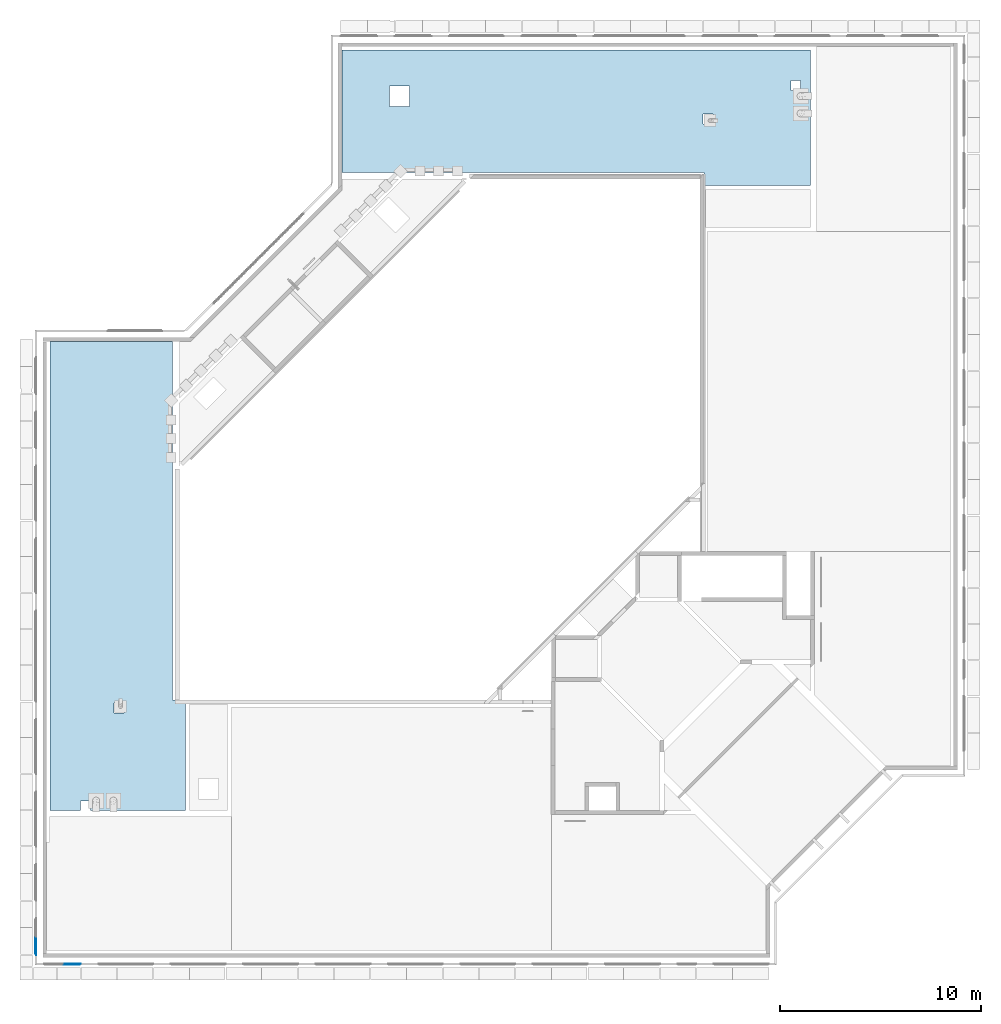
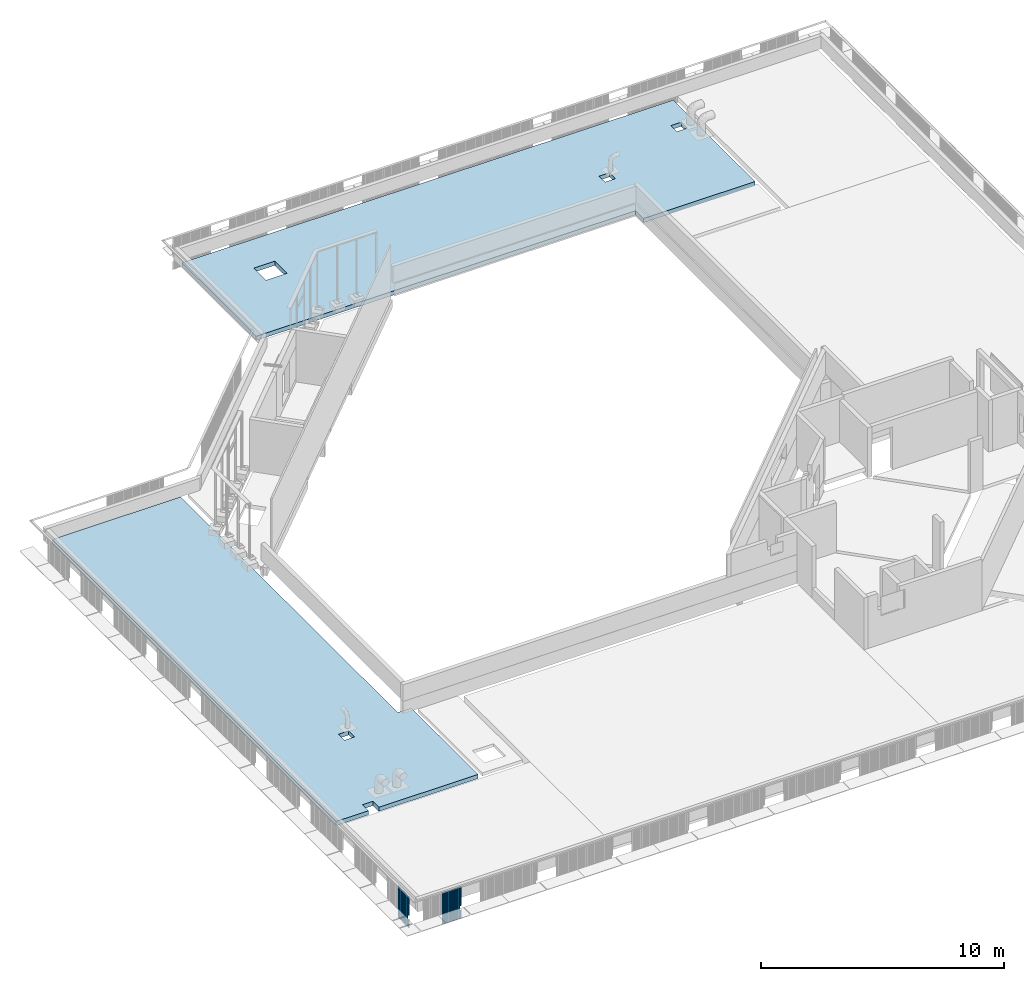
# One storey, part 17 of 37: 2 slabs, 2 walls.
"""IFC4X3_ADD2 building model written with IfcOpenShell, lengths in millimetres."""

import ifcopenshell
import ifcopenshell.guid

model = None  # the IFC model being written
_history = None  # IfcOwnerHistory: only IFC2X3 demands one
_inside = {}  # id of a spatial element -> (the spatial element, [elements in it])
_under = {}  # id of a project, library or spatial element -> (it, [spatial elements below it])
_declared = {}  # id of a project -> (the project, [libraries it declares])
_typed = {}  # id of a type object -> (the type object, [elements of that type])
_made_of = {}  # id of a material, layer set ... -> (it, [elements and type objects made of it])


def new_model(schema):
    """Start an empty IFC model of exactly this schema.

    Asked for "IFC4X3", IfcOpenShell would pick the latest addendum, in which some entities
    have other attributes; the version numbers below select the first issue.
    IFC2X3 requires an IfcOwnerHistory on every rooted entity: one is made here for all.
    """
    global model, _history
    if schema == "IFC4X3":
        model = ifcopenshell.file(schema_version=(4, 3, 0, 0))
    else:
        model = ifcopenshell.file(schema=schema)
    _inside.clear()
    _under.clear()
    _declared.clear()
    _typed.clear()
    _made_of.clear()
    _history = None
    if model.schema == "IFC2X3":
        org = make("IfcOrganization", Name="unknown")
        user = make(
            "IfcPersonAndOrganization",
            ThePerson=make("IfcPerson", FamilyName="unknown"),
            TheOrganization=org,
        )
        app = make(
            "IfcApplication",
            ApplicationDeveloper=org,
            Version="unknown",
            ApplicationFullName="unknown",
            ApplicationIdentifier="unknown",
        )
        _history = make(
            "IfcOwnerHistory",
            OwningUser=user,
            OwningApplication=app,
            ChangeAction="ADDED",
            CreationDate=0,
        )
    return model


def make(cls, **values):
    """One entity of the class cls with the attributes given. An attribute that is None is left unset."""
    return model.create_entity(
        cls, **{name: value for name, value in values.items() if value is not None}
    )


def rooted(cls, **values):
    """An entity with a GlobalId (a new one), such as an element, a storey or a relation."""
    return make(cls, GlobalId=ifcopenshell.guid.new(), OwnerHistory=_history, **values)


def si_unit(unit_type, name, prefix=None):
    """IfcSIUnit, for example si_unit("LENGTHUNIT", "METRE", prefix="MILLI")."""
    return make("IfcSIUnit", UnitType=unit_type, Prefix=prefix, Name=name)


def assignment(units):
    """IfcUnitAssignment: the units of a project."""
    return None if units is None else make("IfcUnitAssignment", Units=units)


def point(xyz):
    """IfcCartesianPoint."""
    return None if xyz is None else make("IfcCartesianPoint", Coordinates=xyz)


def direction(xyz):
    """IfcDirection."""
    return None if xyz is None else make("IfcDirection", DirectionRatios=xyz)


def frame(location, z_axis=None, x_axis=None):
    """IfcAxis2Placement3D, a coordinate frame: its origin and axes. An axis left out is left unset."""
    return make(
        "IfcAxis2Placement3D",
        Location=point(location),
        Axis=direction(z_axis),
        RefDirection=direction(x_axis),
    )


def origin_with_axes():
    """The frame at (0, 0, 0) with the z axis (0, 0, 1) and the x axis (1, 0, 0) written out."""
    return frame((0.0, 0.0, 0.0), z_axis=(0.0, 0.0, 1.0), x_axis=(1.0, 0.0, 0.0))


def place(relative_to, where):
    """IfcLocalPlacement: puts the frame where relative to a parent placement (None: the world)."""
    return make(
        "IfcLocalPlacement", PlacementRelTo=relative_to, RelativePlacement=where
    )


def context(
    kind, dimensions, precision=None, world=None, true_north=None, identifier=None
):
    """IfcGeometricRepresentationContext, for example the 3D "Model" context."""
    return make(
        "IfcGeometricRepresentationContext",
        ContextIdentifier=identifier,
        ContextType=kind,
        CoordinateSpaceDimension=dimensions,
        Precision=precision,
        WorldCoordinateSystem=world,
        TrueNorth=true_north,
    )


def subcontext(parent, identifier, kind, view, scale=None):
    """IfcGeometricRepresentationSubContext, for example "Body" below "Model"."""
    return make(
        "IfcGeometricRepresentationSubContext",
        ContextIdentifier=identifier,
        ContextType=kind,
        ParentContext=parent,
        TargetScale=scale,
        TargetView=view,
    )


def project(units=None, contexts=None):
    """IfcProject with its units and contexts."""
    return rooted(
        "IfcProject",
        Name="project",
        RepresentationContexts=contexts,
        UnitsInContext=assignment(units),
    )


def spatial(cls, under=None, at=None, **own):
    """A site, building, storey or space (cls), placed at a placement, below another one or the project."""
    s = rooted(cls, ObjectPlacement=at, **own)
    if under is not None:
        _under.setdefault(under.id(), (under, []))[1].append(s)
    return s


def point_list(points):
    """IfcCartesianPointList2D or 3D."""
    cls = (
        "IfcCartesianPointList2D" if len(points[0]) == 2 else "IfcCartesianPointList3D"
    )
    return make(cls, CoordList=points)


def faces_of(points, faces, orient=None, outer=None):
    """IfcFace entities. A face is a list of loops; a loop is a list of indices into points, from 0.

    orient and outer hold one flag for each loop. By default every Orientation is true, the
    first loop of a face is its IfcFaceOuterBound and the others are IfcFaceBound.
    """
    made = []
    for i, loops in enumerate(faces):
        bounds = []
        for j, loop in enumerate(loops):
            is_outer = j == 0 if outer is None else outer[i][j]
            bounds.append(
                make(
                    "IfcFaceOuterBound" if is_outer else "IfcFaceBound",
                    Bound=make("IfcPolyLoop", Polygon=[points[k] for k in loop]),
                    Orientation=True if orient is None else orient[i][j],
                )
            )
        made.append(make("IfcFace", Bounds=bounds))
    return made


def faceted_brep(points, faces, orient=None, outer=None, voids=None):
    """IfcFacetedBrep: a solid bounded by flat faces; with voids (closed shells), ...WithVoids."""
    shared = [point(p) for p in points]
    hull = make("IfcClosedShell", CfsFaces=faces_of(shared, faces, orient, outer))
    if voids is None:
        return make("IfcFacetedBrep", Outer=hull)
    return make(
        "IfcFacetedBrepWithVoids",
        Outer=hull,
        Voids=[
            make(cls, CfsFaces=faces_of(shared, fs, o, b)) for cls, fs, o, b in voids
        ],
    )


def polygons(points, faces, closed=None, point_numbers=None):
    """IfcPolygonalFaceSet: a face is its outer loop, then its inner loops; points numbered from 1."""
    made = []
    for loops in faces:
        if len(loops) == 1:
            made.append(make("IfcIndexedPolygonalFace", CoordIndex=loops[0]))
        else:
            made.append(
                make(
                    "IfcIndexedPolygonalFaceWithVoids",
                    CoordIndex=loops[0],
                    InnerCoordIndices=loops[1:],
                )
            )
    return make(
        "IfcPolygonalFaceSet",
        Coordinates=point_list(points),
        Closed=closed,
        Faces=made,
        PnIndex=point_numbers,
    )


def shape(context_of_items, identifier, shape_type, items):
    """IfcShapeRepresentation: the items that make up one representation, for example the "Body"."""
    return make(
        "IfcShapeRepresentation",
        ContextOfItems=context_of_items,
        RepresentationIdentifier=identifier,
        RepresentationType=shape_type,
        Items=items,
    )


def material(Name=None, Category=None):
    """IfcMaterial."""
    return make("IfcMaterial", Name=Name, Category=Category)


def made_of(thing, what):
    """Note that an element or type object is made of a material, layer set ...; save() writes the relation."""
    if what is not None:
        _made_of.setdefault(what.id(), (what, []))[1].append(thing)
    return thing


def type_object(cls, material=None, **own):
    """A type object (cls), such as IfcWallType, which elements share."""
    return made_of(rooted(cls, **own), material)


def element(
    cls,
    number,
    at=None,
    inside=None,
    cuts=None,
    type_object=None,
    material=None,
    context=None,
    identifier="Body",
    shape_type=None,
    held_by="IfcProductDefinitionShape",
    body=None,
    shapes=None,
    **own,
):
    """One element of the class cls, such as IfcWall. Its Tag is "e" and its number.

    at: its placement. inside: the storey or other place that contains it. cuts: it is an
    opening in that element (IfcRelVoidsElement). A single representation is given by context,
    identifier, shape_type and body (its items); several are given by shapes. held_by: the class
    of the entity that holds the representations. save() writes the other relations.
    """
    e = rooted(cls, Tag="e%d" % number, ObjectPlacement=at, **own)
    if body is not None:
        shapes = [shape(context, identifier, shape_type, body)]
    if shapes is not None:
        e.Representation = make(held_by, Representations=shapes)
    if inside is not None:
        _inside.setdefault(inside.id(), (inside, []))[1].append(e)
    if cuts is not None:
        rooted(
            "IfcRelVoidsElement", RelatingBuildingElement=cuts, RelatedOpeningElement=e
        )
    if type_object is not None:
        _typed.setdefault(type_object.id(), (type_object, []))[1].append(e)
    return made_of(e, material)


def aggregate(whole, parts):
    """IfcRelAggregates: a whole, such as a stair, and the parts it consists of."""
    return rooted("IfcRelAggregates", RelatingObject=whole, RelatedObjects=parts)


def save(model, path):
    """Write the relations noted so far, then the file.

    IfcRelAggregates (storeys below a building ...), IfcRelContainedInSpatialStructure (elements
    in a storey), IfcRelDefinesByType, IfcRelAssociatesMaterial and IfcRelDeclares: one each for
    every whole, place, type object, material and project.
    """
    for whole, parts in _under.values():
        aggregate(whole, parts)
    for where, things in _inside.values():
        rooted(
            "IfcRelContainedInSpatialStructure",
            RelatedElements=things,
            RelatingStructure=where,
        )
    for kind, things in _typed.values():
        rooted("IfcRelDefinesByType", RelatedObjects=things, RelatingType=kind)
    for what, things in _made_of.values():
        rooted("IfcRelAssociatesMaterial", RelatedObjects=things, RelatingMaterial=what)
    for by, libraries in _declared.values():
        rooted("IfcRelDeclares", RelatingContext=by, RelatedDefinitions=libraries)
    model.write(path)


model = new_model("IFC4X3_ADD2")

# Units and contexts
model_context = context("Model", 3, precision=1e-05, world=origin_with_axes(), true_north=direction((0.0, 1.0)))
body_context = subcontext(model_context, "Body", "Model", "MODEL_VIEW")
ifc_project = project(units=[si_unit("LENGTHUNIT", "METRE", prefix="MILLI"), si_unit("AREAUNIT", "SQUARE_METRE"), si_unit("VOLUMEUNIT", "CUBIC_METRE"), si_unit("PLANEANGLEUNIT", "RADIAN"), si_unit("TIMEUNIT", "SECOND"), si_unit("MASSUNIT", "GRAM")], contexts=[model_context])

# Site, building, storey
site_placement = place(None, origin_with_axes())
site = spatial("IfcSite", under=ifc_project, at=site_placement, Name="Site", CompositionType="ELEMENT")
building_placement = place(site_placement, origin_with_axes())
building = spatial("IfcBuilding", under=site, at=building_placement, Name="IFC Building Story")
storey_placement = place(building_placement, frame((0.0, 0.0, 14400.0), z_axis=(0.0, 0.0, 1.0), x_axis=(1.0, 0.0, 0.0)))
storey = spatial("IfcBuildingStorey", under=building, at=storey_placement, Name="040", Elevation=14400.0)

# Slabs
ifc_material = material(Name="BB_Beton_Bestaand")
slab_type = type_object("IfcSlabType", Name="BB_Beton_Bestaand 210", PredefinedType="FLOOR", material=ifc_material)
slab_1_placement = place(storey_placement, frame((-45039.99999999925, 30534.86980580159, -410.0), z_axis=(0.0, 0.0, 1.0), x_axis=(0.0, -1.0, 0.0)))
element("IfcSlab", 1, at=slab_1_placement, inside=storey, type_object=slab_type, Name="Floor:BB_XX_Vloer welfsels, 210 mm", ObjectType="Floor:BB_XX_Vloer welfsels, 210 mm", PredefinedType="FLOOR", context=body_context, shape_type="Brep", body=[
    faceted_brep([(-3.637978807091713e-12, 6094.999999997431, 210.0), (17839.86573991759, 6094.999999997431, 210.0), (17839.86573991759, 6094.999999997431, 0.0), (-3.637978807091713e-12, 6094.999999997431, 0.0), (17839.86573991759, 6739.999999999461, 210.0), (17839.86573991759, 6739.999999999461, 0.0), (23334.86964314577, 6739.999999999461, 210.0), (23334.86964314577, 6739.999999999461, 0.0), (23334.86964314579, 2029.999999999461, 210.0), (23334.86964314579, 2029.999999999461, 0.0), (22844.86980580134, 2029.999999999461, 210.0), (22844.86980580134, 2029.999999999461, 0.0), (22844.86980580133, 1539.999999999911, 210.0), (22844.86980580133, 1539.999999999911, 0.0), (23334.86964314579, 1539.999999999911, 210.0), (23334.86964314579, 1539.999999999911, 0.0), (23334.86964314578, 0.0, 210.0), (23334.86964314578, 0.0, 0.0), (-3.637978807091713e-12, 0.0, 210.0), (0.0, 0.0, 0.0), (17974.8657399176, 3199.999999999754, 210.0), (18464.8657399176, 3199.999999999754, 210.0), (18464.8657399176, 3199.999999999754, 0.0), (17974.8657399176, 3199.999999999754, 0.0), (18464.8657399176, 3689.999999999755, 210.0), (18464.8657399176, 3689.999999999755, 0.0), (17974.8657399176, 3689.999999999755, 210.0), (17974.8657399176, 3689.999999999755, 0.0)], [[[0, 1, 2, 3]], [[1, 4, 5, 2]], [[4, 6, 7, 5]], [[6, 8, 9, 7]], [[8, 10, 11, 9]], [[10, 12, 13, 11]], [[12, 14, 15, 13]], [[14, 16, 17, 15]], [[16, 18, 19, 17]], [[18, 0, 3, 19]], [[20, 21, 22, 23]], [[21, 24, 25, 22]], [[24, 26, 27, 25]], [[26, 20, 23, 27]], [[21, 20, 26, 24], [1, 0, 18, 16, 14, 12, 10, 8, 6, 4]], [[27, 23, 22, 25], [19, 3, 2, 5, 7, 9, 11, 13, 15, 17]]], outer=[[True], [True], [True], [True], [True], [True], [True], [True], [True], [True], [True], [True], [True], [True], [False, True], [False, True]]),
])
slab_2_placement = place(storey_placement, frame((-30505.0000000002, 38300.00000000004, -410.0), z_axis=(0.0, 0.0, 1.0), x_axis=(1.0, 0.0, 0.0)))
element("IfcSlab", 2, at=slab_2_placement, inside=storey, type_object=slab_type, Name="Floor:BB_XX_Vloer welfsels, 210 mm", ObjectType="Floor:BB_XX_Vloer welfsels, 210 mm", PredefinedType="FLOOR", context=body_context, shape_type="Brep", body=[
    faceted_brep([(23305.00000000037, 1.818989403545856e-12, 210.0), (17999.99593411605, 1.818989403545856e-12, 210.0), (17999.99593411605, 1.818989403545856e-12, 0.0), (23305.00000000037, 1.818989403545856e-12, 0.0), (17999.99593411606, 644.9959341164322, 210.0), (17999.99593411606, 644.9959341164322, 0.0), (3.637978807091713e-12, 644.9959341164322, 210.0), (3.637978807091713e-12, 644.9959341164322, 0.0), (1.818989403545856e-12, 6740.000000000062, 210.0), (1.818989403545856e-12, 6740.000000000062, 0.0), (23305.00000000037, 6740.000000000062, 210.0), (23305.00000000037, 6740.000000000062, 0.0), (17944.99593411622, 3539.999999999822, 210.0), (17944.99593411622, 3049.999999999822, 210.0), (17944.99593411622, 3049.999999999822, 0.0), (17944.99593411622, 3539.999999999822, 0.0), (18434.99593411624, 3049.999999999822, 210.0), (18434.99593411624, 3049.999999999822, 0.0), (18434.99593411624, 3539.999999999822, 210.0), (18434.99593411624, 3539.999999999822, 0.0), (2354.999999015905, 4930.000000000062, 210.0), (2354.999999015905, 3930.000000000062, 210.0), (2354.999999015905, 3930.000000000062, 0.0), (2354.999999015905, 4930.000000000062, 0.0), (3354.999999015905, 3930.000000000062, 210.0), (3354.999999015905, 3930.000000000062, 0.0), (3354.999999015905, 4930.000000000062, 210.0), (3354.999999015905, 4930.000000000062, 0.0), (22315.00000000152, 5200.000000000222, 210.0), (22315.00000000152, 4710.000000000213, 210.0), (22315.00000000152, 4710.000000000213, 0.0), (22315.00000000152, 5200.000000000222, 0.0), (22805.00000000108, 4710.000000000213, 210.0), (22805.00000000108, 4710.000000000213, 0.0), (22805.00000000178, 5200.000000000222, 210.0), (22805.00000000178, 5200.000000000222, 0.0)], [[[0, 1, 2, 3]], [[1, 4, 5, 2]], [[4, 6, 7, 5]], [[6, 8, 9, 7]], [[8, 10, 11, 9]], [[10, 0, 3, 11]], [[12, 13, 14, 15]], [[13, 16, 17, 14]], [[16, 18, 19, 17]], [[18, 12, 15, 19]], [[20, 21, 22, 23]], [[21, 24, 25, 22]], [[24, 26, 27, 25]], [[26, 20, 23, 27]], [[28, 29, 30, 31]], [[29, 32, 33, 30]], [[32, 34, 35, 33]], [[34, 28, 31, 35]], [[29, 28, 34, 32], [21, 20, 26, 24], [13, 12, 18, 16], [1, 0, 10, 8, 6, 4]], [[35, 31, 30, 33], [27, 23, 22, 25], [19, 15, 14, 17], [11, 3, 2, 5, 7, 9]]], outer=[[True], [True], [True], [True], [True], [True], [True], [True], [True], [True], [True], [True], [True], [True], [True], [True], [True], [True], [False, False, False, True], [False, False, False, True]]),
])

# Walls
wall_1_placement = place(storey_placement, frame((0.0, 0.0, -14400.0), z_axis=(0.0, 0.0, 1.0), x_axis=(1.0, 0.0, 0.0)))
element("IfcWall", 3, at=wall_1_placement, inside=storey, Name="BB_07.10_Gevelbekleding_PuntProfiel, 900 mm, console rechts_GMO:900 x 1600 mm", ObjectType="BB_07.10_Gevelbekleding_PuntProfiel, 900 mm, console rechts_GMO:900 x 1600 mm", PredefinedType="NOTDEFINED", context=body_context, shape_type="Tessellation", body=[
    polygons([(-43560.00000000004, -434.9999999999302, 14060.0), (-43560.00000000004, -433.5857864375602, 14060.0), (-43544.99999999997, -448.585786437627, 14060.0), (-43511.41421356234, -414.9999999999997, 14060.0), (-43488.58578643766, -414.9999999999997, 14060.0), (-43489.00000000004, -415.9999999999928, 14060.0), (-43510.99999999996, -415.9999999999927, 14060.0), (-43544.99999999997, -449.9999999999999, 14060.0), (-43560.00000000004, -434.9999999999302, 13860.0), (-43560.00000000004, -433.5857864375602, 13860.0), (-43544.99999999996, -449.9999999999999, 13860.0), (-43510.99999999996, -415.9999999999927, 13860.0), (-43489.00000000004, -415.9999999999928, 13860.0), (-43488.58578643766, -414.9999999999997, 13860.0), (-43511.41421356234, -414.9999999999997, 13860.0), (-43544.99999999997, -448.585786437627, 13860.0), (-44321.00000000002, -415.9999999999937, 15040.0), (-44299.00000000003, -415.9999999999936, 15040.0), (-44265.00000000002, -449.9999999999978, 15040.0), (-44231.00000000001, -415.9999999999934, 15040.0), (-44209.00000000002, -415.9999999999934, 15040.0), (-44175.00000000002, -449.9999999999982, 15040.0), (-44141.00000000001, -415.9999999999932, 15040.0), (-44119.00000000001, -415.9999999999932, 15040.0), (-44085.00000000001, -449.9999999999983, 15040.0), (-44051.00000000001, -415.9999999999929, 15040.0), (-44029.0, -415.9999999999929, 15040.0), (-43995.0, -449.9999999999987, 15040.0), (-43960.99999999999, -415.9999999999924, 15040.0), (-43938.99999999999, -415.9999999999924, 15040.0), (-43904.99999999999, -449.9999999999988, 15040.0), (-43870.99999999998, -415.9999999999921, 15040.0), (-43848.99999999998, -415.9999999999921, 15040.0), (-43814.99999999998, -449.9999999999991, 15040.0), (-43780.99999999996, -415.9999999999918, 15040.0), (-43758.99999999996, -415.9999999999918, 15040.0), (-43724.99999999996, -449.9999999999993, 15040.0), (-43690.99999999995, -415.9999999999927, 15040.0), (-43668.99999999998, -415.9999999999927, 15040.0), (-43634.99999999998, -449.9999999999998, 15040.0), (-43600.99999999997, -415.9999999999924, 15040.0), (-43578.99999999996, -415.9999999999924, 15040.0), (-43544.99999999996, -449.9999999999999, 15040.0), (-43510.99999999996, -415.9999999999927, 15040.0), (-43489.00000000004, -415.9999999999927, 15040.0), (-43488.58578643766, -414.9999999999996, 15040.0), (-43511.41421356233, -414.9999999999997, 15040.0), (-43544.99999999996, -448.585786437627, 15040.0), (-43578.58578643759, -414.9999999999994, 15040.0), (-43601.41421356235, -414.9999999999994, 15040.0), (-43634.99999999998, -448.5857864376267, 15040.0), (-43668.58578643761, -414.9999999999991, 15040.0), (-43691.41421356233, -414.9999999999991, 15040.0), (-43724.99999999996, -448.5857864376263, 15040.0), (-43758.58578643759, -414.9999999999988, 15040.0), (-43781.41421356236, -414.9999999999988, 15040.0), (-43814.99999999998, -448.5857864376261, 15040.0), (-43848.58578643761, -414.9999999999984, 15040.0), (-43871.41421356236, -414.9999999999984, 15040.0), (-43904.99999999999, -448.5857864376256, 15040.0), (-43938.58578643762, -414.9999999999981, 15040.0), (-43961.41421356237, -414.9999999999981, 15040.0), (-43995.0, -448.5857864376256, 15040.0), (-44028.58578643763, -414.999999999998, 15040.0), (-44051.41421356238, -414.999999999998, 15040.0), (-44085.00000000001, -448.5857864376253, 15040.0), (-44118.58578643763, -414.9999999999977, 15040.0), (-44141.41421356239, -414.9999999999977, 15040.0), (-44175.00000000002, -448.5857864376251, 15040.0), (-44208.58578643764, -414.9999999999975, 15040.0), (-44231.41421356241, -414.9999999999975, 15040.0), (-44265.00000000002, -448.5857864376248, 15040.0), (-44298.58578643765, -414.9999999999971, 15040.0), (-44321.4142135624, -414.9999999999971, 15040.0), (-44355.00000000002, -448.5857864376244, 15040.0), (-44388.58578643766, -414.9999999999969, 15040.0), (-44411.4142135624, -414.9999999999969, 15040.0), (-44411.00000000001, -415.9999999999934, 15040.0), (-44389.00000000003, -415.9999999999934, 15040.0), (-44355.00000000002, -449.9999999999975, 15040.0), (-44321.00000000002, -415.9999999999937, 13440.0), (-44355.00000000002, -449.9999999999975, 13440.0), (-44389.00000000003, -415.9999999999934, 13440.0), (-44411.00000000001, -415.9999999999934, 13440.0), (-44411.4142135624, -414.9999999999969, 13440.0), (-44388.58578643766, -414.9999999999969, 13440.0), (-44355.00000000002, -448.5857864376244, 13440.0), (-44321.4142135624, -414.9999999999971, 13440.0), (-44298.58578643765, -414.9999999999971, 13440.0), (-44265.00000000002, -448.5857864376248, 13440.0), (-44231.41421356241, -414.9999999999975, 13440.0), (-44208.58578643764, -414.9999999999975, 13440.0), (-44175.00000000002, -448.5857864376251, 13440.0), (-44141.41421356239, -414.9999999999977, 13440.0), (-44118.58578643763, -414.9999999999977, 13440.0), (-44085.00000000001, -448.5857864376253, 13440.0), (-44051.41421356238, -414.999999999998, 13440.0), (-44028.58578643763, -414.999999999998, 13440.0), (-43995.0, -448.5857864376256, 13440.0), (-43961.41421356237, -414.9999999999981, 13440.0), (-43938.58578643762, -414.9999999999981, 13440.0), (-43904.99999999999, -448.5857864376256, 13440.0), (-43871.41421356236, -414.9999999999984, 13440.0), (-43848.58578643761, -414.9999999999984, 13440.0), (-43814.99999999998, -448.5857864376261, 13440.0), (-43781.41421356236, -414.9999999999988, 13440.0), (-43758.58578643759, -414.9999999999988, 13440.0), (-43724.99999999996, -448.5857864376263, 13440.0), (-43691.41421356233, -414.9999999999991, 13440.0), (-43668.58578643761, -414.9999999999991, 13440.0), (-43634.99999999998, -448.5857864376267, 13440.0), (-43601.41421356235, -414.9999999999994, 13440.0), (-43578.58578643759, -414.9999999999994, 13440.0), (-43544.99999999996, -448.585786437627, 13440.0), (-43511.41421356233, -414.9999999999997, 13440.0), (-43488.58578643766, -414.9999999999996, 13440.0), (-43489.00000000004, -415.9999999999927, 13440.0), (-43510.99999999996, -415.9999999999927, 13440.0), (-43544.99999999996, -449.9999999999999, 13440.0), (-43578.99999999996, -415.9999999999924, 13440.0), (-43600.99999999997, -415.9999999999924, 13440.0), (-43634.99999999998, -449.9999999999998, 13440.0), (-43668.99999999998, -415.9999999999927, 13440.0), (-43690.99999999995, -415.9999999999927, 13440.0), (-43724.99999999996, -449.9999999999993, 13440.0), (-43758.99999999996, -415.9999999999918, 13440.0), (-43780.99999999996, -415.9999999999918, 13440.0), (-43814.99999999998, -449.9999999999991, 13440.0), (-43848.99999999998, -415.9999999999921, 13440.0), (-43870.99999999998, -415.9999999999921, 13440.0), (-43904.99999999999, -449.9999999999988, 13440.0), (-43938.99999999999, -415.9999999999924, 13440.0), (-43960.99999999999, -415.9999999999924, 13440.0), (-43995.0, -449.9999999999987, 13440.0), (-44029.0, -415.9999999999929, 13440.0), (-44051.00000000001, -415.9999999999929, 13440.0), (-44085.00000000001, -449.9999999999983, 13440.0), (-44119.00000000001, -415.9999999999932, 13440.0), (-44141.00000000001, -415.9999999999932, 13440.0), (-44175.00000000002, -449.9999999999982, 13440.0), (-44209.00000000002, -415.9999999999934, 13440.0), (-44231.00000000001, -415.9999999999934, 13440.0), (-44265.00000000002, -449.9999999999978, 13440.0), (-44299.00000000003, -415.9999999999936, 13440.0)], [[[7, 8, 3]], [[7, 3, 4]], [[4, 5, 6]], [[4, 6, 7]], [[8, 1, 2]], [[8, 2, 3]], [[2, 1, 9, 10]], [[12, 13, 14]], [[12, 14, 15]], [[16, 10, 9]], [[16, 9, 11]], [[11, 12, 15]], [[11, 15, 16]], [[44, 45, 46]], [[44, 46, 47]], [[48, 49, 42]], [[48, 42, 43]], [[43, 44, 47]], [[43, 47, 48]], [[49, 50, 41]], [[49, 41, 42]], [[51, 52, 39]], [[51, 39, 40]], [[40, 41, 50]], [[40, 50, 51]], [[52, 53, 38]], [[52, 38, 39]], [[54, 55, 36]], [[54, 36, 37]], [[37, 38, 53]], [[37, 53, 54]], [[55, 56, 35]], [[55, 35, 36]], [[57, 58, 33]], [[57, 33, 34]], [[34, 35, 56]], [[34, 56, 57]], [[58, 59, 32]], [[58, 32, 33]], [[60, 61, 30]], [[60, 30, 31]], [[31, 32, 59]], [[31, 59, 60]], [[61, 62, 29]], [[61, 29, 30]], [[63, 64, 27]], [[63, 27, 28]], [[28, 29, 62]], [[28, 62, 63]], [[64, 65, 26]], [[64, 26, 27]], [[66, 67, 24]], [[66, 24, 25]], [[25, 26, 65]], [[25, 65, 66]], [[67, 68, 23]], [[67, 23, 24]], [[69, 70, 21]], [[69, 21, 22]], [[22, 23, 68]], [[22, 68, 69]], [[70, 71, 20]], [[70, 20, 21]], [[72, 73, 18]], [[72, 18, 19]], [[19, 20, 71]], [[19, 71, 72]], [[73, 74, 17]], [[73, 17, 18]], [[79, 80, 75]], [[79, 75, 76]], [[76, 77, 78]], [[76, 78, 79]], [[80, 17, 74]], [[80, 74, 75]], [[83, 84, 85]], [[83, 85, 86]], [[87, 88, 81]], [[87, 81, 82]], [[82, 83, 86]], [[82, 86, 87]], [[118, 119, 114]], [[118, 114, 115]], [[115, 116, 117]], [[115, 117, 118]], [[121, 122, 111]], [[121, 111, 112]], [[112, 113, 120]], [[112, 120, 121]], [[113, 114, 119]], [[113, 119, 120]], [[124, 125, 108]], [[124, 108, 109]], [[109, 110, 123]], [[109, 123, 124]], [[110, 111, 122]], [[110, 122, 123]], [[127, 128, 105]], [[127, 105, 106]], [[106, 107, 126]], [[106, 126, 127]], [[107, 108, 125]], [[107, 125, 126]], [[130, 131, 102]], [[130, 102, 103]], [[103, 104, 129]], [[103, 129, 130]], [[104, 105, 128]], [[104, 128, 129]], [[133, 134, 99]], [[133, 99, 100]], [[100, 101, 132]], [[100, 132, 133]], [[101, 102, 131]], [[101, 131, 132]], [[136, 137, 96]], [[136, 96, 97]], [[97, 98, 135]], [[97, 135, 136]], [[98, 99, 134]], [[98, 134, 135]], [[139, 140, 93]], [[139, 93, 94]], [[94, 95, 138]], [[94, 138, 139]], [[95, 96, 137]], [[95, 137, 138]], [[142, 143, 90]], [[142, 90, 91]], [[91, 92, 141]], [[91, 141, 142]], [[92, 93, 140]], [[92, 140, 141]], [[144, 81, 88]], [[144, 88, 89]], [[89, 90, 143]], [[89, 143, 144]], [[18, 17, 81, 144]], [[19, 18, 144, 143]], [[20, 19, 143, 142]], [[21, 20, 142, 141]], [[22, 21, 141, 140]], [[23, 22, 140, 139]], [[24, 23, 139, 138]], [[25, 24, 138, 137]], [[26, 25, 137, 136]], [[27, 26, 136, 135]], [[28, 27, 135, 134]], [[29, 28, 134, 133]], [[30, 29, 133, 132]], [[31, 30, 132, 131]], [[32, 31, 131, 130]], [[33, 32, 130, 129]], [[34, 33, 129, 128]], [[35, 34, 128, 127]], [[36, 35, 127, 126]], [[37, 36, 126, 125]], [[38, 37, 125, 124]], [[54, 53, 109, 108]], [[55, 54, 108, 107]], [[56, 55, 107, 106]], [[57, 56, 106, 105]], [[58, 57, 105, 104]], [[59, 58, 104, 103]], [[60, 59, 103, 102]], [[61, 60, 102, 101]], [[62, 61, 101, 100]], [[63, 62, 100, 99]], [[64, 63, 99, 98]], [[65, 64, 98, 97]], [[66, 65, 97, 96]], [[67, 66, 96, 95]], [[68, 67, 95, 94]], [[69, 68, 94, 93]], [[70, 69, 93, 92]], [[71, 70, 92, 91]], [[72, 71, 91, 90]], [[73, 72, 90, 89]], [[74, 73, 89, 88]], [[80, 79, 83, 82]], [[17, 80, 82, 81]], [[39, 38, 124, 123]], [[40, 39, 123, 122]], [[41, 40, 122, 121]], [[42, 41, 121, 120]], [[1, 8, 43]], [[1, 43, 42]], [[42, 9, 1]], [[42, 120, 9]], [[120, 119, 11]], [[120, 11, 9]], [[44, 43, 8, 7]], [[45, 44, 7, 6]], [[47, 46, 5, 4]], [[48, 47, 4, 3]], [[10, 16, 114]], [[10, 114, 113]], [[113, 2, 10]], [[2, 113, 49]], [[49, 48, 2]], [[48, 3, 2]], [[50, 49, 113, 112]], [[51, 50, 112, 111]], [[52, 51, 111, 110]], [[53, 52, 110, 109]], [[75, 74, 88, 87]], [[76, 75, 87, 86]], [[46, 45, 6, 5]], [[77, 76, 86, 85]], [[78, 77, 85, 84]], [[79, 78, 84, 83]], [[117, 116, 14, 13]], [[115, 114, 16, 15]], [[116, 115, 15, 14]], [[118, 117, 13, 12]], [[119, 118, 12, 11]]]),
])
wall_2_placement = place(storey_placement, frame((0.0, 0.0, -14400.0), z_axis=(0.0, 0.0, 1.0), x_axis=(1.0, 0.0, 0.0)))
element("IfcWall", 4, at=wall_2_placement, inside=storey, Name="BB_07.10_Gevelbekleding_PuntProfiel, 900 mm, console rechts_GMO:900 x 1600 mm", ObjectType="BB_07.10_Gevelbekleding_PuntProfiel, 900 mm, console rechts_GMO:900 x 1600 mm", PredefinedType="NOTDEFINED", context=body_context, shape_type="Tessellation", body=[
    polygons([(-45734.99999999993, 90.00000000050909, 14060.0), (-45733.58578643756, 90.00000000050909, 14060.0), (-45748.58578643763, 75.0000000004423, 14060.0), (-45715.0, 41.414213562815, 14060.0), (-45715.00000000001, 18.58578643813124, 14060.0), (-45716.0, 19.00000000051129, 14060.0), (-45715.99999999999, 41.0000000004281, 14060.0), (-45750.0, 75.0000000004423, 14060.0), (-45734.99999999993, 90.00000000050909, 13860.0), (-45733.58578643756, 90.00000000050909, 13860.0), (-45750.00000000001, 75.0000000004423, 13860.0), (-45716.0, 41.0000000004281, 13860.0), (-45716.0, 19.00000000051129, 13860.0), (-45715.0, 18.58578643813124, 13860.0), (-45715.0, 41.414213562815, 13860.0), (-45748.58578643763, 75.0000000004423, 13860.0), (-45716.0, 851.0000000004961, 15040.0), (-45716.0, 829.0000000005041, 15040.0), (-45750.0, 795.0000000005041, 15040.0), (-45716.0, 761.0000000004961, 15040.0), (-45716.0, 739.000000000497, 15040.0), (-45750.0, 705.0000000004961, 15040.0), (-45716.0, 671.0000000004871, 15040.0), (-45716.0, 649.0000000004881, 15040.0), (-45750.00000000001, 615.0000000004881, 15040.0), (-45716.0, 581.000000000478, 15040.0), (-45716.0, 559.0000000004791, 15040.0), (-45750.00000000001, 525.0000000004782, 15040.0), (-45716.0, 491.0000000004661, 15040.0), (-45716.0, 469.0000000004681, 15040.0), (-45750.00000000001, 435.0000000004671, 15040.0), (-45716.0, 401.0000000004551, 15040.0), (-45716.0, 379.0000000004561, 15040.0), (-45750.00000000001, 345.0000000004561, 15040.0), (-45716.0, 311.0000000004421, 15040.0), (-45716.0, 289.0000000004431, 15040.0), (-45750.00000000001, 255.0000000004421, 15040.0), (-45716.0, 221.0000000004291, 15040.0), (-45716.0, 199.0000000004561, 15040.0), (-45750.00000000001, 165.0000000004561, 15040.0), (-45716.0, 131.0000000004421, 15040.0), (-45716.0, 109.0000000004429, 15040.0), (-45750.00000000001, 75.00000000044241, 15040.0), (-45716.0, 41.0000000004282, 15040.0), (-45716.0, 19.00000000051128, 15040.0), (-45715.00000000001, 18.58578643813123, 15040.0), (-45715.00000000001, 41.414213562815, 15040.0), (-45748.58578643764, 75.00000000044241, 15040.0), (-45715.00000000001, 108.5857864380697, 15040.0), (-45715.00000000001, 131.4142135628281, 15040.0), (-45748.58578643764, 165.0000000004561, 15040.0), (-45715.00000000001, 198.5857864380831, 15040.0), (-45715.00000000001, 221.4142135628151, 15040.0), (-45748.58578643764, 255.0000000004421, 15040.0), (-45715.00000000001, 288.5857864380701, 15040.0), (-45715.00000000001, 311.4142135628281, 15040.0), (-45748.58578643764, 345.0000000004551, 15040.0), (-45715.00000000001, 378.5857864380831, 15040.0), (-45715.00000000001, 401.4142135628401, 15040.0), (-45748.58578643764, 435.0000000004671, 15040.0), (-45715.00000000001, 468.5857864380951, 15040.0), (-45715.00000000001, 491.4142135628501, 15040.0), (-45748.58578643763, 525.0000000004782, 15040.0), (-45715.00000000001, 558.5857864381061, 15040.0), (-45715.00000000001, 581.4142135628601, 15040.0), (-45748.58578643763, 615.0000000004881, 15040.0), (-45715.00000000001, 648.5857864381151, 15040.0), (-45715.00000000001, 671.4142135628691, 15040.0), (-45748.58578643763, 705.0000000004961, 15040.0), (-45715.0, 738.585786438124, 15040.0), (-45715.0, 761.4142135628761, 15040.0), (-45748.58578643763, 795.0000000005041, 15040.0), (-45715.0, 828.5857864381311, 15040.0), (-45715.0, 851.4142135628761, 15040.0), (-45748.58578643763, 885.0000000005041, 15040.0), (-45715.0, 918.5857864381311, 15040.0), (-45715.0, 941.4142135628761, 15040.0), (-45716.0, 941.0000000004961, 15040.0), (-45716.0, 919.0000000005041, 15040.0), (-45750.0, 885.0000000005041, 15040.0), (-45716.0, 851.0000000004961, 13440.0), (-45750.0, 885.0000000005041, 13440.0), (-45716.0, 919.0000000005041, 13440.0), (-45716.0, 941.0000000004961, 13440.0), (-45715.0, 941.4142135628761, 13440.0), (-45715.0, 918.5857864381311, 13440.0), (-45748.58578643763, 885.0000000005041, 13440.0), (-45715.0, 851.4142135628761, 13440.0), (-45715.0, 828.5857864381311, 13440.0), (-45748.58578643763, 795.0000000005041, 13440.0), (-45715.0, 761.4142135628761, 13440.0), (-45715.0, 738.585786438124, 13440.0), (-45748.58578643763, 705.0000000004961, 13440.0), (-45715.00000000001, 671.4142135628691, 13440.0), (-45715.00000000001, 648.5857864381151, 13440.0), (-45748.58578643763, 615.0000000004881, 13440.0), (-45715.00000000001, 581.4142135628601, 13440.0), (-45715.00000000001, 558.5857864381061, 13440.0), (-45748.58578643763, 525.0000000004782, 13440.0), (-45715.00000000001, 491.4142135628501, 13440.0), (-45715.00000000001, 468.5857864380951, 13440.0), (-45748.58578643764, 435.0000000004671, 13440.0), (-45715.00000000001, 401.4142135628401, 13440.0), (-45715.00000000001, 378.5857864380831, 13440.0), (-45748.58578643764, 345.0000000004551, 13440.0), (-45715.00000000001, 311.4142135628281, 13440.0), (-45715.00000000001, 288.5857864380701, 13440.0), (-45748.58578643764, 255.0000000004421, 13440.0), (-45715.00000000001, 221.4142135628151, 13440.0), (-45715.00000000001, 198.5857864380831, 13440.0), (-45748.58578643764, 165.0000000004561, 13440.0), (-45715.00000000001, 131.4142135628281, 13440.0), (-45715.00000000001, 108.5857864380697, 13440.0), (-45748.58578643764, 75.00000000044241, 13440.0), (-45715.00000000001, 41.414213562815, 13440.0), (-45715.00000000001, 18.58578643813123, 13440.0), (-45716.0, 19.00000000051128, 13440.0), (-45716.0, 41.0000000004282, 13440.0), (-45750.00000000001, 75.00000000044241, 13440.0), (-45716.0, 109.0000000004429, 13440.0), (-45716.0, 131.0000000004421, 13440.0), (-45750.00000000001, 165.0000000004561, 13440.0), (-45716.0, 199.0000000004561, 13440.0), (-45716.0, 221.0000000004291, 13440.0), (-45750.00000000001, 255.0000000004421, 13440.0), (-45716.0, 289.0000000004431, 13440.0), (-45716.0, 311.0000000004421, 13440.0), (-45750.00000000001, 345.0000000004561, 13440.0), (-45716.0, 379.0000000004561, 13440.0), (-45716.0, 401.0000000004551, 13440.0), (-45750.00000000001, 435.0000000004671, 13440.0), (-45716.0, 469.0000000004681, 13440.0), (-45716.0, 491.0000000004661, 13440.0), (-45750.00000000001, 525.0000000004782, 13440.0), (-45716.0, 559.0000000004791, 13440.0), (-45716.0, 581.000000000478, 13440.0), (-45750.00000000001, 615.0000000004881, 13440.0), (-45716.0, 649.0000000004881, 13440.0), (-45716.0, 671.0000000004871, 13440.0), (-45750.0, 705.0000000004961, 13440.0), (-45716.0, 739.000000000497, 13440.0), (-45716.0, 761.0000000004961, 13440.0), (-45750.0, 795.0000000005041, 13440.0), (-45716.0, 829.0000000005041, 13440.0)], [[[7, 8, 3]], [[7, 3, 4]], [[4, 5, 6]], [[4, 6, 7]], [[8, 1, 2]], [[8, 2, 3]], [[2, 1, 9, 10]], [[12, 13, 14]], [[12, 14, 15]], [[16, 10, 9]], [[16, 9, 11]], [[11, 12, 15]], [[11, 15, 16]], [[44, 45, 46]], [[44, 46, 47]], [[48, 49, 42]], [[48, 42, 43]], [[43, 44, 47]], [[43, 47, 48]], [[49, 50, 41]], [[49, 41, 42]], [[51, 52, 39]], [[51, 39, 40]], [[40, 41, 50]], [[40, 50, 51]], [[52, 53, 38]], [[52, 38, 39]], [[54, 55, 36]], [[54, 36, 37]], [[37, 38, 53]], [[37, 53, 54]], [[55, 56, 35]], [[55, 35, 36]], [[57, 58, 33]], [[57, 33, 34]], [[34, 35, 56]], [[34, 56, 57]], [[58, 59, 32]], [[58, 32, 33]], [[60, 61, 30]], [[60, 30, 31]], [[31, 32, 59]], [[31, 59, 60]], [[61, 62, 29]], [[61, 29, 30]], [[63, 64, 27]], [[63, 27, 28]], [[28, 29, 62]], [[28, 62, 63]], [[64, 65, 26]], [[64, 26, 27]], [[66, 67, 24]], [[66, 24, 25]], [[25, 26, 65]], [[25, 65, 66]], [[67, 68, 23]], [[67, 23, 24]], [[69, 70, 21]], [[69, 21, 22]], [[22, 23, 68]], [[22, 68, 69]], [[70, 71, 20]], [[70, 20, 21]], [[72, 73, 18]], [[72, 18, 19]], [[19, 20, 71]], [[19, 71, 72]], [[73, 74, 17]], [[73, 17, 18]], [[79, 80, 75]], [[79, 75, 76]], [[76, 77, 78]], [[76, 78, 79]], [[80, 17, 74]], [[80, 74, 75]], [[83, 84, 85]], [[83, 85, 86]], [[87, 88, 81]], [[87, 81, 82]], [[82, 83, 86]], [[82, 86, 87]], [[118, 119, 114]], [[118, 114, 115]], [[115, 116, 117]], [[115, 117, 118]], [[121, 122, 111]], [[121, 111, 112]], [[112, 113, 120]], [[112, 120, 121]], [[113, 114, 119]], [[113, 119, 120]], [[124, 125, 108]], [[124, 108, 109]], [[109, 110, 123]], [[109, 123, 124]], [[110, 111, 122]], [[110, 122, 123]], [[127, 128, 105]], [[127, 105, 106]], [[106, 107, 126]], [[106, 126, 127]], [[107, 108, 125]], [[107, 125, 126]], [[130, 131, 102]], [[130, 102, 103]], [[103, 104, 129]], [[103, 129, 130]], [[104, 105, 128]], [[104, 128, 129]], [[133, 134, 99]], [[133, 99, 100]], [[100, 101, 132]], [[100, 132, 133]], [[101, 102, 131]], [[101, 131, 132]], [[136, 137, 96]], [[136, 96, 97]], [[97, 98, 135]], [[97, 135, 136]], [[98, 99, 134]], [[98, 134, 135]], [[139, 140, 93]], [[139, 93, 94]], [[94, 95, 138]], [[94, 138, 139]], [[95, 96, 137]], [[95, 137, 138]], [[142, 143, 90]], [[142, 90, 91]], [[91, 92, 141]], [[91, 141, 142]], [[92, 93, 140]], [[92, 140, 141]], [[144, 81, 88]], [[144, 88, 89]], [[89, 90, 143]], [[89, 143, 144]], [[18, 17, 81, 144]], [[19, 18, 144, 143]], [[20, 19, 143, 142]], [[21, 20, 142, 141]], [[22, 21, 141, 140]], [[23, 22, 140, 139]], [[24, 23, 139, 138]], [[25, 24, 138, 137]], [[26, 25, 137, 136]], [[27, 26, 136, 135]], [[28, 27, 135, 134]], [[29, 28, 134, 133]], [[30, 29, 133, 132]], [[31, 30, 132, 131]], [[32, 31, 131, 130]], [[33, 32, 130, 129]], [[34, 33, 129, 128]], [[35, 34, 128, 127]], [[36, 35, 127, 126]], [[37, 36, 126, 125]], [[38, 37, 125, 124]], [[54, 53, 109, 108]], [[55, 54, 108, 107]], [[56, 55, 107, 106]], [[57, 56, 106, 105]], [[58, 57, 105, 104]], [[59, 58, 104, 103]], [[60, 59, 103, 102]], [[61, 60, 102, 101]], [[62, 61, 101, 100]], [[63, 62, 100, 99]], [[64, 63, 99, 98]], [[65, 64, 98, 97]], [[66, 65, 97, 96]], [[67, 66, 96, 95]], [[68, 67, 95, 94]], [[69, 68, 94, 93]], [[70, 69, 93, 92]], [[71, 70, 92, 91]], [[72, 71, 91, 90]], [[73, 72, 90, 89]], [[74, 73, 89, 88]], [[80, 79, 83, 82]], [[17, 80, 82, 81]], [[39, 38, 124, 123]], [[40, 39, 123, 122]], [[41, 40, 122, 121]], [[42, 41, 121, 120]], [[1, 8, 43]], [[1, 43, 42]], [[42, 9, 1]], [[42, 120, 9]], [[120, 119, 11]], [[120, 11, 9]], [[44, 43, 8, 7]], [[45, 44, 7, 6]], [[47, 46, 5, 4]], [[48, 47, 4, 3]], [[10, 16, 114]], [[10, 114, 113]], [[113, 2, 10]], [[2, 113, 49]], [[49, 48, 2]], [[48, 3, 2]], [[50, 49, 113, 112]], [[51, 50, 112, 111]], [[52, 51, 111, 110]], [[53, 52, 110, 109]], [[75, 74, 88, 87]], [[76, 75, 87, 86]], [[46, 45, 6, 5]], [[77, 76, 86, 85]], [[78, 77, 85, 84]], [[79, 78, 84, 83]], [[117, 116, 14, 13]], [[115, 114, 16, 15]], [[116, 115, 15, 14]], [[118, 117, 13, 12]], [[119, 118, 12, 11]]]),
])

save(model, "model.ifc")
